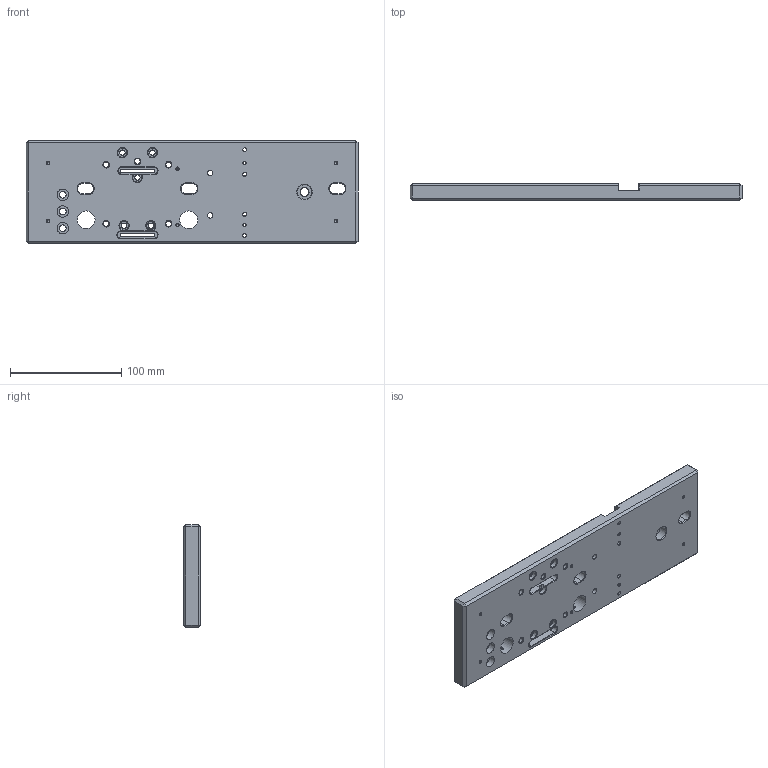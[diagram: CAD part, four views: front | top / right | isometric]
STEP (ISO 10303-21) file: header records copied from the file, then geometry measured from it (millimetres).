
FILE_DESCRIPTION(/* description */ (''),/* implementation_level */ '2;1');
FILE_NAME(/* name */ 'D:\IN 制图\设备\手动剥线机带侧刀4.02\工程图\底座电动版 4.02.stp',/* time_stamp */ '2026-06-23T10:35:05+08:00',/* author */ ('ROG'),/* organization */ (''),/* preprocessor_version */ 'ST-DEVELOPER v19',/* originating_system */ 'Autodesk Inventor 2023',/* authorisation */ '');
FILE_SCHEMA (('AUTOMOTIVE_DESIGN { 1 0 10303 214 3 1 1 }'));
Length unit declared in the file: millimetre
Products named in the file (1): 基座L
Bounding box: 298 x 15 x 92 mm (x, y, z)
Volume: 369618.4 mm3; surface area: 74838.8 mm2
Topology: 1 solids, 1 shells, 262 faces, 638 edges, 394 vertices
Faces by surface type: plane 120, cylinder 70, cone 70, bspline 2
Full cylindrical faces by diameter (mm): 2.459 x16, 3.242 x4, 4.8 x5, 4.917 x7, 6 x2, 6.1 x3, 8.1 x5, 10.1 x3, 13 x1, 16 x2, 30 x1
Entity records: 8216 total; most frequent: CARTESIAN_POINT 1675, DIRECTION 1365, ORIENTED_EDGE 1252, EDGE_CURVE 626, AXIS2_PLACEMENT_3D 486, VERTEX_POINT 394, LINE 393, VECTOR 393
